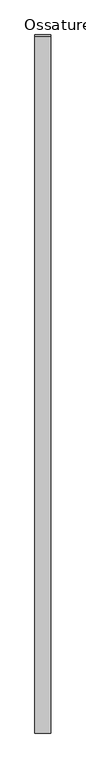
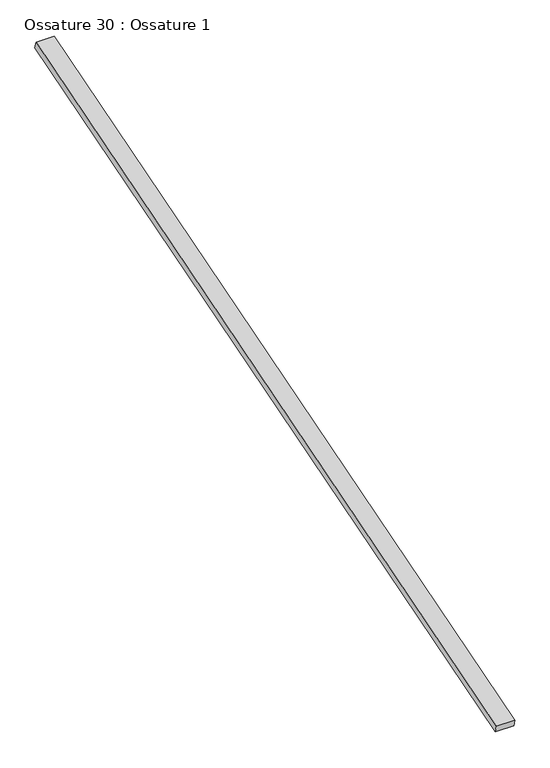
"""IFC4 building model written with IfcOpenShell, lengths in millimetres: beam geometry, Ossature 30 : Ossature 1."""

from ifc_helpers import new_model, si_unit, frame, origin, place, context, project, spatial, polyline, outline, extrude, source, transform, mapped, element, save


def ossature_30_ossature_1_74c21a2e(model_context):
    return source(origin(), model_context, "Body", "SweptSolid", [
        extrude(outline(polyline([(0.0, 0.0), (0.0, -4543.0299679), (-100.0, -4543.0299679), (-100.0, 0.0), (0.0, 0.0)])), frame((7449.6466393, -833.3913565, 8153.6336115), z_axis=(0.0, -0.28734788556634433, 0.9578262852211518), x_axis=(-1.0, 0.0, 0.0)), (0.0, 0.0, 1.0), 40.0),
    ])


if __name__ == "__main__":
    model = new_model("IFC4")
    model_context = context("Model", 3, world=origin())
    ifc_project = project(units=[si_unit("LENGTHUNIT", "METRE", prefix="MILLI")], contexts=[model_context])
    site = spatial("IfcSite", under=ifc_project)
    building = spatial("IfcBuilding", under=site)
    placement = place(None, origin())
    ossature_30_ossature_1_shape = ossature_30_ossature_1_74c21a2e(model_context)
    element("IfcBeam", 1, ObjectType="Ossature 30 : Ossature 1", at=placement, inside=building, context=model_context, shape_type="MappedRepresentation", body=[
        mapped(ossature_30_ossature_1_shape, transform((0.0, 0.0, 0.0), x_axis=(1.0, 0.0, 0.0), y_axis=(0.0, 1.0, 0.0), z_axis=(0.0, 0.0, 1.0))),
    ])
    save(model, "model.ifc")
